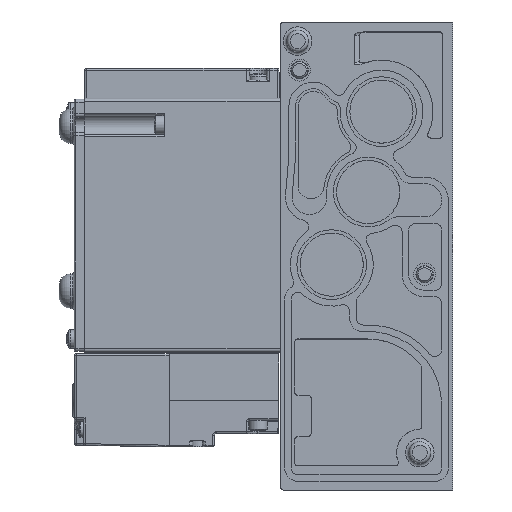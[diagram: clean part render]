
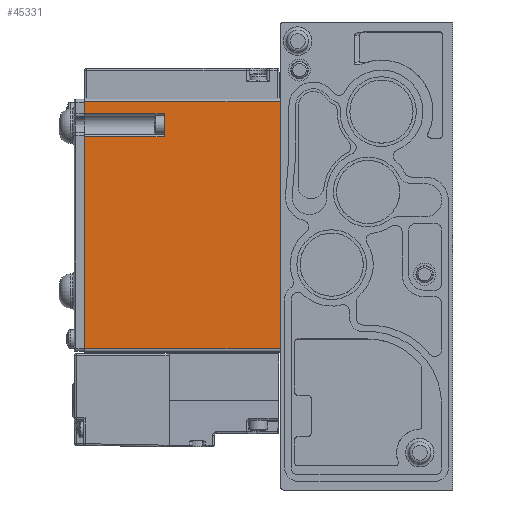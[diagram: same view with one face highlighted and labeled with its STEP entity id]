
A CAD part, left-side view. The second image highlights one B-rep face of the part: STEP entity #45331.
In plain terms, the highlighted planar face has unit normal (-1, 0, 0).
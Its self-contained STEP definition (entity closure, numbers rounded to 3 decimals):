
#561 = ORIENTED_EDGE ( 'NONE', *, *, #10821, .F. ) ;
#3248 = CARTESIAN_POINT ( 'NONE',  ( -12., 0., 37.25 ) ) ;
#6801 = DIRECTION ( 'NONE',  ( 0., 0., 1. ) ) ;
#9094 = LINE ( 'NONE', #101491, #92426 ) ;
#10598 = DIRECTION ( 'NONE',  ( 0., 1., 0. ) ) ;
#10821 = EDGE_CURVE ( 'NONE', #51120, #41362, #39947, .T. ) ;
#11409 = ORIENTED_EDGE ( 'NONE', *, *, #60875, .T. ) ;
#12090 = LINE ( 'NONE', #44452, #95451 ) ;
#12103 = DIRECTION ( 'NONE',  ( 0., 1., 0. ) ) ;
#16047 = LINE ( 'NONE', #37628, #99478 ) ;
#18178 = EDGE_CURVE ( 'NONE', #26916, #51504, #42757, .T. ) ;
#20545 = ORIENTED_EDGE ( 'NONE', *, *, #89523, .F. ) ;
#20757 = CARTESIAN_POINT ( 'NONE',  ( -12., 35., 26.75 ) ) ;
#21100 = DIRECTION ( 'NONE',  ( 0., 1., 0. ) ) ;
#21250 = VECTOR ( 'NONE', #38958, 1000. ) ;
#22422 = ORIENTED_EDGE ( 'NONE', *, *, #23692, .F. ) ;
#23692 = EDGE_CURVE ( 'NONE', #48410, #75642, #46391, .T. ) ;
#26916 = VERTEX_POINT ( 'NONE', #99054 ) ;
#29259 = ORIENTED_EDGE ( 'NONE', *, *, #78120, .T. ) ;
#29899 = ORIENTED_EDGE ( 'NONE', *, *, #97129, .F. ) ;
#32133 = ORIENTED_EDGE ( 'NONE', *, *, #18178, .F. ) ;
#34510 = CARTESIAN_POINT ( 'NONE',  ( -12., 59., 33.75 ) ) ;
#34631 = CARTESIAN_POINT ( 'NONE',  ( -12., 59., 37.25 ) ) ;
#37628 = CARTESIAN_POINT ( 'NONE',  ( -12., 35., 26.75 ) ) ;
#38958 = DIRECTION ( 'NONE',  ( 0., 0., 1. ) ) ;
#39947 = LINE ( 'NONE', #97908, #80340 ) ;
#40343 = VECTOR ( 'NONE', #21100, 1000. ) ;
#41093 = DIRECTION ( 'NONE',  ( 0., 0., -1. ) ) ;
#41362 = VERTEX_POINT ( 'NONE', #59424 ) ;
#42757 = LINE ( 'NONE', #87319, #21250 ) ;
#43842 = VECTOR ( 'NONE', #12103, 1000. ) ;
#44452 = CARTESIAN_POINT ( 'NONE',  ( -12., 59., 38.25 ) ) ;
#45331 = ADVANCED_FACE ( 'NONE', ( #75050 ), #54882, .T. ) ;
#45767 = DIRECTION ( 'NONE',  ( 0., 0., 1. ) ) ;
#46391 = LINE ( 'NONE', #68632, #43842 ) ;
#48410 = VERTEX_POINT ( 'NONE', #54755 ) ;
#49320 = VECTOR ( 'NONE', #10598, 1000. ) ;
#51120 = VERTEX_POINT ( 'NONE', #3248 ) ;
#51504 = VERTEX_POINT ( 'NONE', #90623 ) ;
#52574 = DIRECTION ( 'NONE',  ( 0., 0., 1. ) ) ;
#53099 = DIRECTION ( 'NONE',  ( 0., -1., 0. ) ) ;
#53705 = ORIENTED_EDGE ( 'NONE', *, *, #92267, .T. ) ;
#54755 = CARTESIAN_POINT ( 'NONE',  ( -12., 35., 33.75 ) ) ;
#54882 = PLANE ( 'NONE',  #88060 ) ;
#55240 = DIRECTION ( 'NONE',  ( -1., 0., 0. ) ) ;
#58468 = VERTEX_POINT ( 'NONE', #63187 ) ;
#59424 = CARTESIAN_POINT ( 'NONE',  ( -12., 0., -37.25 ) ) ;
#60875 = EDGE_CURVE ( 'NONE', #58468, #51504, #61844, .T. ) ;
#61844 = LINE ( 'NONE', #20757, #40343 ) ;
#63187 = CARTESIAN_POINT ( 'NONE',  ( -12., 35., 26.75 ) ) ;
#68632 = CARTESIAN_POINT ( 'NONE',  ( -12., 35., 33.75 ) ) ;
#70792 = LINE ( 'NONE', #34631, #49320 ) ;
#75050 = FACE_OUTER_BOUND ( 'NONE', #84624, .T. ) ;
#75642 = VERTEX_POINT ( 'NONE', #34510 ) ;
#77419 = CARTESIAN_POINT ( 'NONE',  ( -12., 59., 37.25 ) ) ;
#78120 = EDGE_CURVE ( 'NONE', #51120, #88487, #70792, .T. ) ;
#80340 = VECTOR ( 'NONE', #41093, 1000. ) ;
#84624 = EDGE_LOOP ( 'NONE', ( #32133, #53705, #561, #29259, #29899, #22422, #20545, #11409 ) ) ;
#87319 = CARTESIAN_POINT ( 'NONE',  ( -12., 59., 38.25 ) ) ;
#88060 = AXIS2_PLACEMENT_3D ( 'NONE', #103639, #55240, #6801 ) ;
#88487 = VERTEX_POINT ( 'NONE', #77419 ) ;
#89523 = EDGE_CURVE ( 'NONE', #58468, #48410, #16047, .T. ) ;
#90623 = CARTESIAN_POINT ( 'NONE',  ( -12., 59., 26.75 ) ) ;
#92267 = EDGE_CURVE ( 'NONE', #26916, #41362, #9094, .T. ) ;
#92426 = VECTOR ( 'NONE', #53099, 1000. ) ;
#95451 = VECTOR ( 'NONE', #52574, 1000. ) ;
#97129 = EDGE_CURVE ( 'NONE', #75642, #88487, #12090, .T. ) ;
#97908 = CARTESIAN_POINT ( 'NONE',  ( -12., 0., 38.25 ) ) ;
#99054 = CARTESIAN_POINT ( 'NONE',  ( -12., 59., -37.25 ) ) ;
#99478 = VECTOR ( 'NONE', #45767, 1000. ) ;
#101491 = CARTESIAN_POINT ( 'NONE',  ( -12., 0., -37.25 ) ) ;
#103639 = CARTESIAN_POINT ( 'NONE',  ( -12., 59., 38.25 ) ) ;
